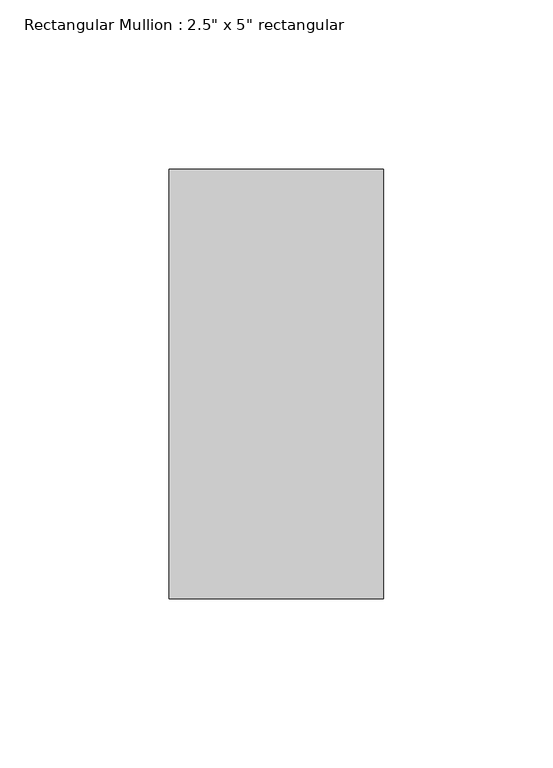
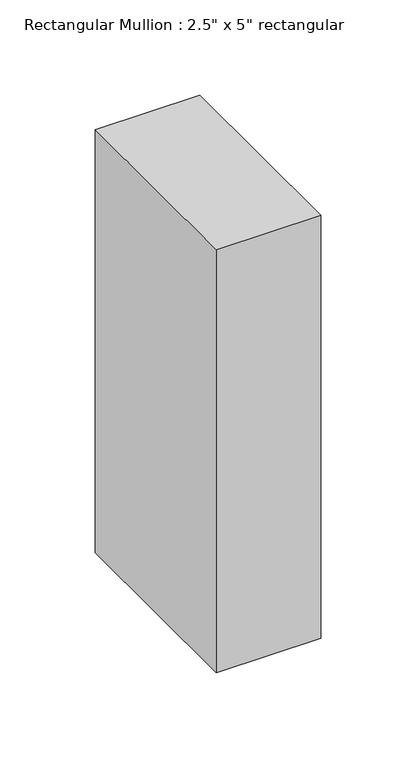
"""IFC4 building model written with IfcOpenShell, lengths in millimetres: member geometry."""

from ifc_helpers import new_model, si_unit, frame, origin, place, context, project, spatial, polyline, outline, extrude, source, transform, mapped, element, save


def member_f9ea35da(model_context):
    return source(origin(), model_context, "Body", "SweptSolid", [
        extrude(outline(polyline([(31.75, 63.5), (31.75, -63.5), (-31.75, -63.5), (-31.75, 63.5), (31.75, 63.5)])), frame((0.0, 0.0, -271.2356351), z_axis=(0.0, 0.0, 1.0), x_axis=(1.0, 0.0, 0.0)), (0.0, 0.0, 1.0), 271.2356351),
    ])


if __name__ == "__main__":
    model = new_model("IFC4")
    model_context = context("Model", 3, world=origin())
    ifc_project = project(units=[si_unit("LENGTHUNIT", "METRE", prefix="MILLI")], contexts=[model_context])
    site = spatial("IfcSite", under=ifc_project)
    building = spatial("IfcBuilding", under=site)
    placement = place(None, origin())
    member_shape = member_f9ea35da(model_context)
    element("IfcMember", 1, ObjectType="Rectangular Mullion : 2.5\" x 5\" rectangular", at=placement, inside=building, context=model_context, shape_type="MappedRepresentation", body=[
        mapped(member_shape, transform((0.0, 0.0, 0.0), x_axis=(1.0, 0.0, 0.0), y_axis=(0.0, 1.0, 0.0), z_axis=(0.0, 0.0, 1.0))),
    ])
    save(model, "model.ifc")
